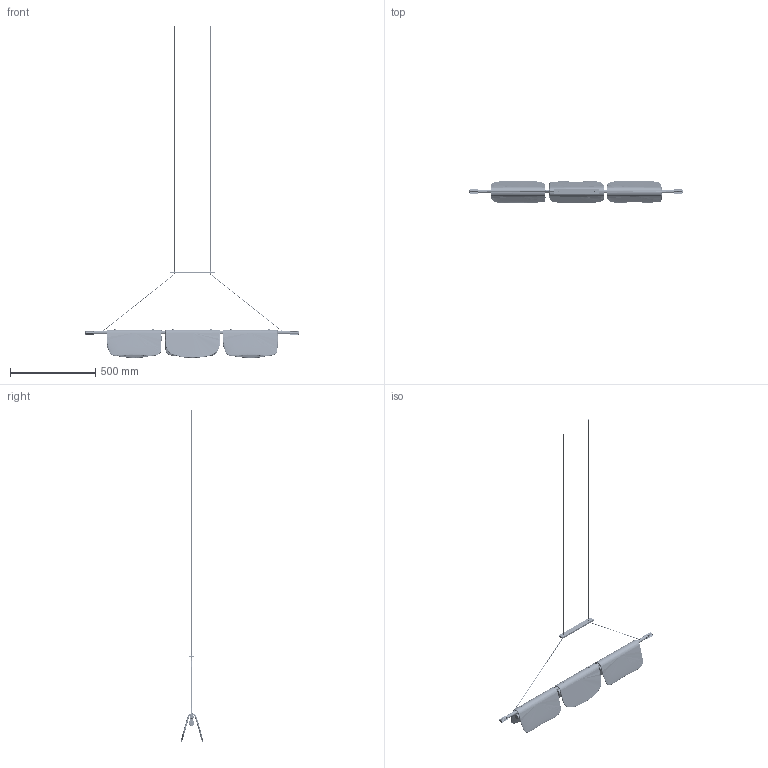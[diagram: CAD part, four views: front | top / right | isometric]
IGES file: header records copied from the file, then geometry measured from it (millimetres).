
Start section: SolidWorks IGES file using analytic representation for surfaces
Global section: file name: C:\Users\adrian\Desktop\Nueva Colección Enero 2026\3D\drive-download-20251230T145340Z-1-001\LIDA\C1357_3.STEP.IGS; native system: SolidWorks 2023; preprocessor: SolidWorks 2023; author: adrian; date: 251230.165646; units: millimetre
Bounding box: 1249.58 x 134.68 x 1945.79 mm (x, y, z)
Surface area: 933449.3 mm2 (no closed solid volume)
Topology: 0 solids, 0 shells, 34789 faces, 109495 edges, 109429 vertices
Faces by surface type: bspline 34493, revolution 296
